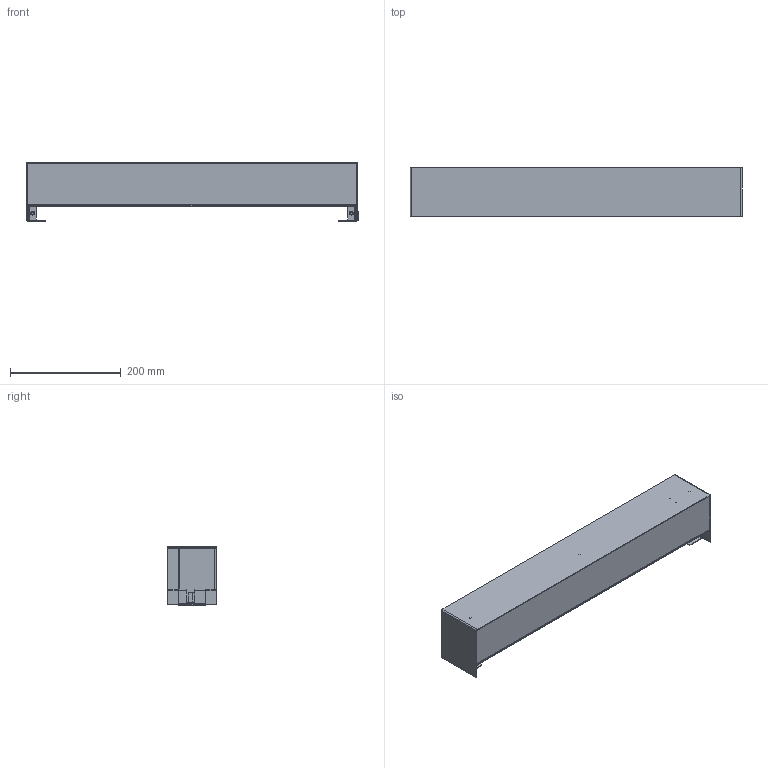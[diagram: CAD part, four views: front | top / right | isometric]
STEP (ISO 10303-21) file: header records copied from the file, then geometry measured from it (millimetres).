
FILE_DESCRIPTION (( 'STEP AP214' ), '1' );
FILE_NAME ('3D_VIIVA_60.STEP', '2018-03-14T15:33:38', ( 'Utente' ), ( '' ), 'SwSTEP 2.0', 'SolidWorks 2016', '' );
FILE_SCHEMA (( 'AUTOMOTIVE_DESIGN' ));
Length unit declared in the file: millimetre
Products named in the file (3): 3D_VIIVA_60; Group2^3D_VIIVA_60; Group1^3D_VIIVA_60
Assembly tree (2 placements, depth 2):
  3D_VIIVA_60
    Group1^3D_VIIVA_60
    Group2^3D_VIIVA_60
Bounding box: 600 x 90 x 105.5 mm (x, y, z)
Volume: 465798.2 mm3; surface area: 456131.4 mm2
Topology: 3 solids, 3 shells, 301 faces, 712 edges, 430 vertices
Faces by surface type: plane 185, cylinder 90, torus 12, cone 10, sphere 4
Entity records: 10223 total; most frequent: DIRECTION 1574, CARTESIAN_POINT 1448, ORIENTED_EDGE 1424, EDGE_CURVE 712, AXIS2_PLACEMENT_3D 556, LINE 462, VECTOR 462, VERTEX_POINT 430
